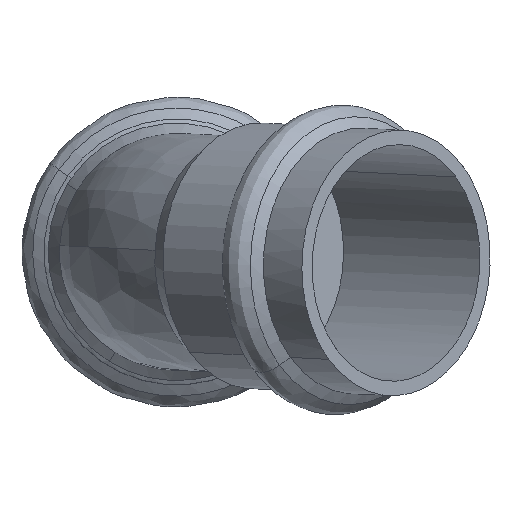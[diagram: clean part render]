
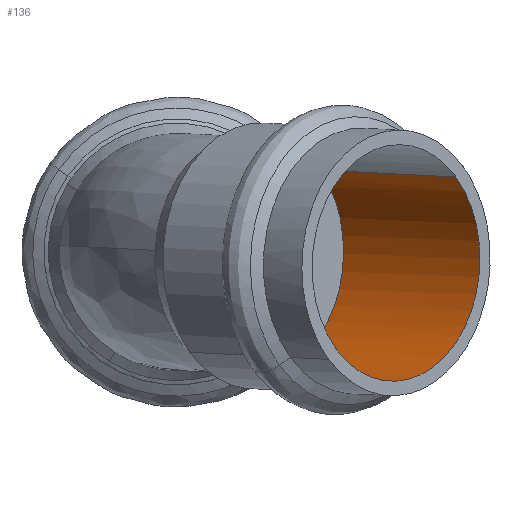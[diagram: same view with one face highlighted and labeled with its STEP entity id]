
A CAD part, top view. The second image highlights one B-rep face of the part: STEP entity #136.
In plain terms, the highlighted cylindrical face has radius 19.025 mm (diameter 38.05 mm), a partial arc.
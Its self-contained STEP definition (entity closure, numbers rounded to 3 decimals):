
#136=ADVANCED_FACE('',(#268),#269,.F.);
#268=FACE_OUTER_BOUND('',#813,.T.);
#269=CYLINDRICAL_SURFACE('',#814,19.025);
#813=EDGE_LOOP('',(#1145,#1146,#1147,#1148,#1149,#1150));
#814=AXIS2_PLACEMENT_3D('',#1151,#1152,#1153);
#1145=ORIENTED_EDGE('',*,*,#1183,.T.);
#1146=ORIENTED_EDGE('',*,*,#1311,.F.);
#1147=ORIENTED_EDGE('',*,*,#1312,.F.);
#1148=ORIENTED_EDGE('',*,*,#1185,.T.);
#1149=ORIENTED_EDGE('',*,*,#1308,.F.);
#1150=ORIENTED_EDGE('',*,*,#1309,.F.);
#1151=CARTESIAN_POINT('',(17.686,-0.935,17.711));
#1152=DIRECTION('',(-0.706,0.037,-0.707));
#1153=DIRECTION('',(-0.505,-0.726,0.466));
#1183=EDGE_CURVE('',#1341,#1342,#1343,.T.);
#1185=EDGE_CURVE('',#1346,#1344,#1347,.T.);
#1308=EDGE_CURVE('',#1525,#1344,#1526,.T.);
#1309=EDGE_CURVE('',#1341,#1525,#1527,.T.);
#1311=EDGE_CURVE('',#1529,#1342,#1530,.T.);
#1312=EDGE_CURVE('',#1346,#1529,#1531,.T.);
#1341=VERTEX_POINT('',#1685);
#1342=VERTEX_POINT('',#1686);
#1343=LINE('',#1687,#1688);
#1344=VERTEX_POINT('',#1689);
#1346=VERTEX_POINT('',#1702);
#1347=LINE('',#1703,#1704);
#1525=VERTEX_POINT('',#2449);
#1526=(B_SPLINE_CURVE(2,(#2451,#2452,#2453),.UNSPECIFIED.,.F.,.F.)B_SPLINE_CURVE_WITH_KNOTS((3,3),(-3.142,-1.571),.UNSPECIFIED.)RATIONAL_B_SPLINE_CURVE((1.0,0.707,1.0))BOUNDED_CURVE()REPRESENTATION_ITEM('')GEOMETRIC_REPRESENTATION_ITEM()CURVE());
#1527=(B_SPLINE_CURVE(2,(#2461,#2462,#2463),.UNSPECIFIED.,.F.,.F.)B_SPLINE_CURVE_WITH_KNOTS((3,3),(1.571,3.142),.UNSPECIFIED.)RATIONAL_B_SPLINE_CURVE((1.0,0.707,1.0))BOUNDED_CURVE()REPRESENTATION_ITEM('')GEOMETRIC_REPRESENTATION_ITEM()CURVE());
#1529=VERTEX_POINT('',#2471);
#1530=(B_SPLINE_CURVE(2,(#2473,#2474,#2475),.UNSPECIFIED.,.F.,.F.)B_SPLINE_CURVE_WITH_KNOTS((3,3),(-3.142,-1.571),.UNSPECIFIED.)RATIONAL_B_SPLINE_CURVE((1.0,0.707,1.0))BOUNDED_CURVE()REPRESENTATION_ITEM('')GEOMETRIC_REPRESENTATION_ITEM()CURVE());
#1531=(B_SPLINE_CURVE(2,(#2483,#2484,#2485),.UNSPECIFIED.,.F.,.F.)B_SPLINE_CURVE_WITH_KNOTS((3,3),(1.571,3.142),.UNSPECIFIED.)RATIONAL_B_SPLINE_CURVE((1.0,0.707,1.0))BOUNDED_CURVE()REPRESENTATION_ITEM('')GEOMETRIC_REPRESENTATION_ITEM()CURVE());
#1685=CARTESIAN_POINT('',(3.697,-14.521,22.195));
#1686=CARTESIAN_POINT('',(25.587,-15.678,44.115));
#1687=CARTESIAN_POINT('',(8.075,-14.752,26.579));
#1688=VECTOR('',#2495,1.0);
#1689=CARTESIAN_POINT('',(22.919,13.114,4.458));
#1702=CARTESIAN_POINT('',(44.809,11.957,26.378));
#1703=CARTESIAN_POINT('',(27.297,12.883,8.842));
#1704=VECTOR('',#2496,1.0);
#2449=CARTESIAN_POINT('',(22.748,-13.762,3.211));
#2451=CARTESIAN_POINT('',(22.748,-13.762,3.211));
#2452=CARTESIAN_POINT('',(32.359,0.056,-5.657));
#2453=CARTESIAN_POINT('',(22.919,13.114,4.458));
#2461=CARTESIAN_POINT('',(3.697,-14.521,22.195));
#2462=CARTESIAN_POINT('',(13.136,-27.579,12.08));
#2463=CARTESIAN_POINT('',(22.748,-13.762,3.211));
#2471=CARTESIAN_POINT('',(44.637,-14.919,25.131));
#2473=CARTESIAN_POINT('',(44.637,-14.919,25.131));
#2474=CARTESIAN_POINT('',(35.026,-28.736,34.));
#2475=CARTESIAN_POINT('',(25.587,-15.678,44.115));
#2483=CARTESIAN_POINT('',(44.809,11.957,26.378));
#2484=CARTESIAN_POINT('',(54.249,-1.101,16.263));
#2485=CARTESIAN_POINT('',(44.637,-14.919,25.131));
#2495=DIRECTION('',(0.706,-0.037,0.707));
#2496=DIRECTION('',(-0.706,0.037,-0.707));
